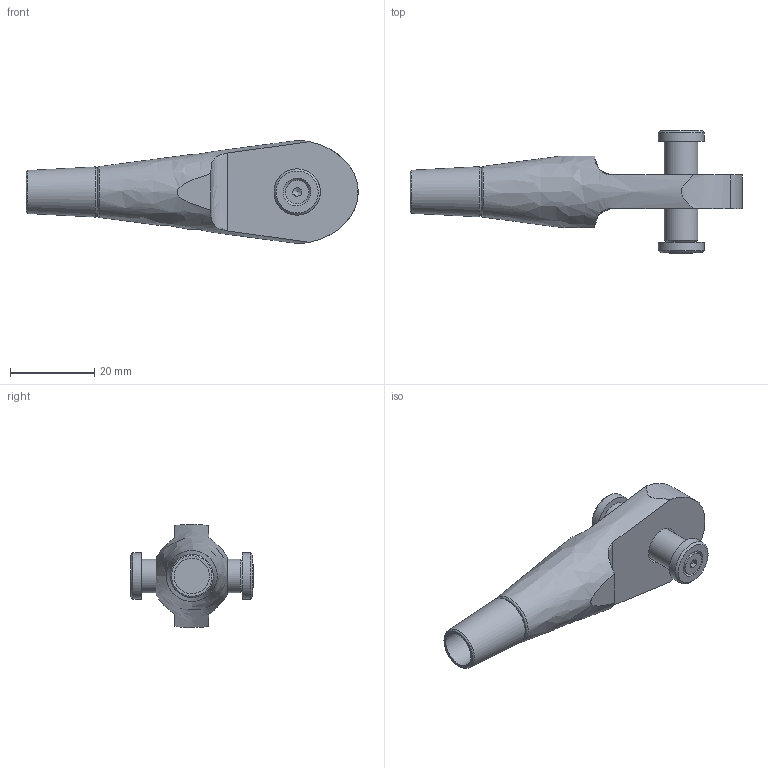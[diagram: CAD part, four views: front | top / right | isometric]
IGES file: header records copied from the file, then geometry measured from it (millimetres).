
Global section: file name: 520-008-OES; native system: Autodesk Inventor 2016; preprocessor: unknown; author: Administrator; date: 20200626.100834; units: centimetre
Bounding box: 78.98 x 29.11 x 24.51 mm (x, y, z)
Volume: 13071.4 mm3; surface area: 5768.3 mm2
Topology: 2 solids, 3 shells, 49 faces, 119 edges, 81 vertices
Faces by surface type: bspline 49
